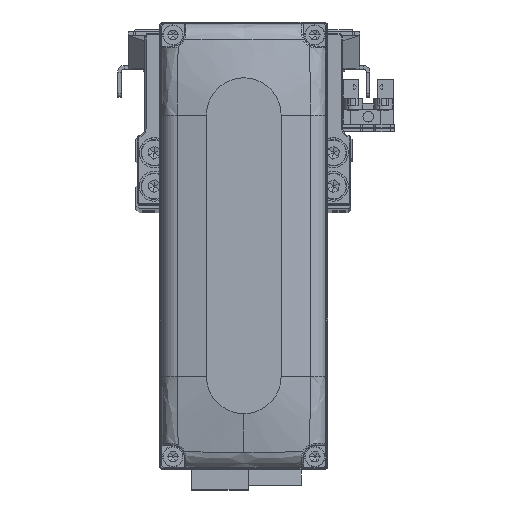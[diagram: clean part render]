
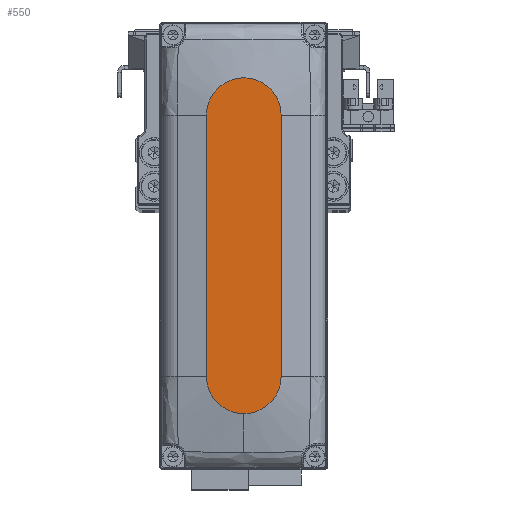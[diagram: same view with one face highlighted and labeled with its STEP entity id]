
A CAD part, top view. The second image highlights one B-rep face of the part: STEP entity #550.
In plain terms, the highlighted planar face has unit normal (0, 0, 1).
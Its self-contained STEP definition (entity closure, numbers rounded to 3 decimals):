
#550 = ADVANCED_FACE ( 'NONE', ( #14905 ), #28297, .T. ) ;
#1180 = DIRECTION ( 'NONE',  ( 1., 0., 0. ) ) ;
#2104 = EDGE_CURVE ( 'NONE', #11127, #10464, #30780, .T. ) ;
#3340 = ORIENTED_EDGE ( 'NONE', *, *, #24227, .T. ) ;
#5830 = DIRECTION ( 'NONE',  ( 1., 0., 0. ) ) ;
#6082 = DIRECTION ( 'NONE',  ( 0., 0., 1. ) ) ;
#7235 = VECTOR ( 'NONE', #37231, 1000. ) ;
#10430 = LINE ( 'NONE', #23831, #7235 ) ;
#10464 = VERTEX_POINT ( 'NONE', #11558 ) ;
#10978 = CIRCLE ( 'NONE', #24596, 10. ) ;
#11106 = AXIS2_PLACEMENT_3D ( 'NONE', #41688, #11609, #25002 ) ;
#11127 = VERTEX_POINT ( 'NONE', #23068 ) ;
#11558 = CARTESIAN_POINT ( 'NONE',  ( 45., 0., 28. ) ) ;
#11609 = DIRECTION ( 'NONE',  ( 0., 0., 1. ) ) ;
#11844 = AXIS2_PLACEMENT_3D ( 'NONE', #41997, #11917, #25317 ) ;
#11917 = DIRECTION ( 'NONE',  ( 0., 0., 1. ) ) ;
#12508 = ORIENTED_EDGE ( 'NONE', *, *, #23569, .T. ) ;
#14905 = FACE_OUTER_BOUND ( 'NONE', #30723, .T. ) ;
#15721 = ORIENTED_EDGE ( 'NONE', *, *, #19010, .T. ) ;
#17908 = LINE ( 'NONE', #31289, #21767 ) ;
#18923 = AXIS2_PLACEMENT_3D ( 'NONE', #36191, #6082, #19506 ) ;
#19010 = EDGE_CURVE ( 'NONE', #28346, #34902, #10978, .T. ) ;
#19506 = DIRECTION ( 'NONE',  ( 1., 0., 0. ) ) ;
#21767 = VECTOR ( 'NONE', #1180, 1000. ) ;
#22543 = CARTESIAN_POINT ( 'NONE',  ( -35., 0., 28. ) ) ;
#23068 = CARTESIAN_POINT ( 'NONE',  ( 35., -10., 28. ) ) ;
#23569 = EDGE_CURVE ( 'NONE', #10464, #33091, #37846, .T. ) ;
#23831 = CARTESIAN_POINT ( 'NONE',  ( -35., 10., 28. ) ) ;
#24227 = EDGE_CURVE ( 'NONE', #34902, #11127, #17908, .T. ) ;
#24533 = CARTESIAN_POINT ( 'NONE',  ( -35., -10., 28. ) ) ;
#24596 = AXIS2_PLACEMENT_3D ( 'NONE', #22543, #35943, #5830 ) ;
#25002 = DIRECTION ( 'NONE',  ( 1., 0., 0. ) ) ;
#25317 = DIRECTION ( 'NONE',  ( 1., 0., 0. ) ) ;
#28297 = PLANE ( 'NONE',  #11106 ) ;
#28346 = VERTEX_POINT ( 'NONE', #40623 ) ;
#30723 = EDGE_LOOP ( 'NONE', ( #37790, #15721, #3340, #36130, #12508 ) ) ;
#30780 = CIRCLE ( 'NONE', #11844, 10. ) ;
#31289 = CARTESIAN_POINT ( 'NONE',  ( -35., -10., 28. ) ) ;
#33091 = VERTEX_POINT ( 'NONE', #36871 ) ;
#34902 = VERTEX_POINT ( 'NONE', #24533 ) ;
#35943 = DIRECTION ( 'NONE',  ( 0., 0., 1. ) ) ;
#36130 = ORIENTED_EDGE ( 'NONE', *, *, #2104, .T. ) ;
#36191 = CARTESIAN_POINT ( 'NONE',  ( 35., 0., 28. ) ) ;
#36871 = CARTESIAN_POINT ( 'NONE',  ( 35., 10., 28. ) ) ;
#37231 = DIRECTION ( 'NONE',  ( -1., 0., 0. ) ) ;
#37790 = ORIENTED_EDGE ( 'NONE', *, *, #38813, .T. ) ;
#37846 = CIRCLE ( 'NONE', #18923, 10. ) ;
#38813 = EDGE_CURVE ( 'NONE', #33091, #28346, #10430, .T. ) ;
#40623 = CARTESIAN_POINT ( 'NONE',  ( -35., 10., 28. ) ) ;
#41688 = CARTESIAN_POINT ( 'NONE',  ( 0., 0., 28. ) ) ;
#41997 = CARTESIAN_POINT ( 'NONE',  ( 35., 0., 28. ) ) ;
